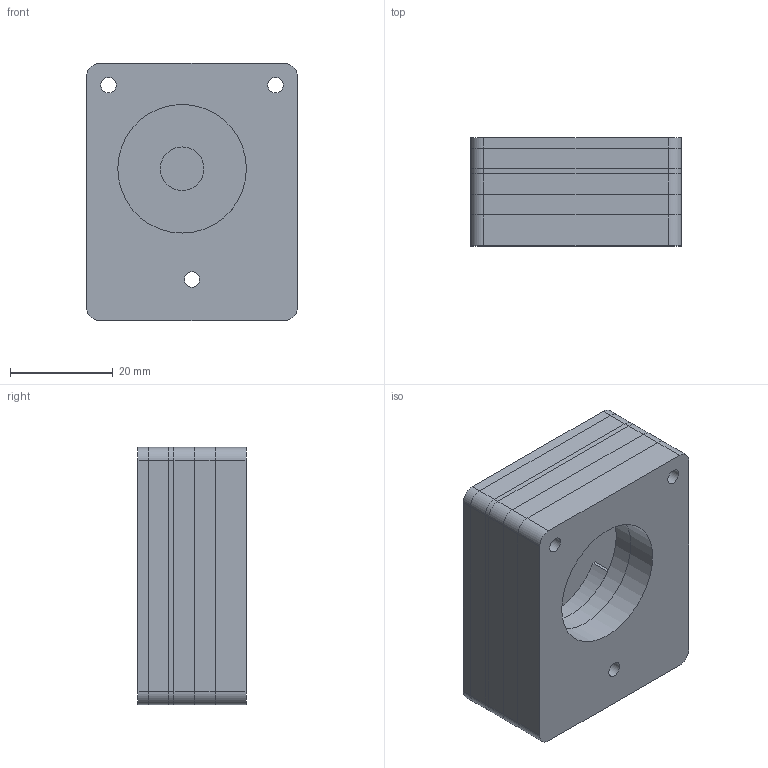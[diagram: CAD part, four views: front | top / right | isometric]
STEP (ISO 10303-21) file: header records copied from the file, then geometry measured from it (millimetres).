
FILE_DESCRIPTION(/* description */ (''),/* implementation_level */ '2;1');
FILE_NAME(/* name */ 'D:/P_8vN v4.step',/* time_stamp */ '2019-07-15T12:55:06+03:00',/* author */ (''),/* organization */ (''),/* preprocessor_version */ 'ST-DEVELOPER v18',/* originating_system */ 'Autodesk Translation Framework v8.2.0.1029',/* authorisation */ '');
FILE_SCHEMA (('AUTOMOTIVE_DESIGN { 1 0 10303 214 3 1 1 }'));
Length unit declared in the file: millimetre
Products named in the file (7): P_8vN; Крыльчатка; Сепаратор; Приток; Ротор; Верх; Статор
Assembly tree (6 placements, depth 2):
  P_8vN
    Крыльчатка
    Сепаратор
    Приток
    Ротор
    Верх
    Статор
Bounding box: 40.95 x 21 x 50 mm (x, y, z)
Volume: 32398.1 mm3; surface area: 25696.6 mm2
Topology: 6 solids, 6 shells, 122 faces, 330 edges, 220 vertices
Faces by surface type: plane 67, cylinder 54, bspline 1
Full cylindrical faces by diameter (mm): 3 x18, 8.5 x1, 25 x2
Entity records: 4340 total; most frequent: CARTESIAN_POINT 842, DIRECTION 704, ORIENTED_EDGE 660, EDGE_CURVE 330, AXIS2_PLACEMENT_3D 242, LINE 220, VECTOR 220, VERTEX_POINT 220
